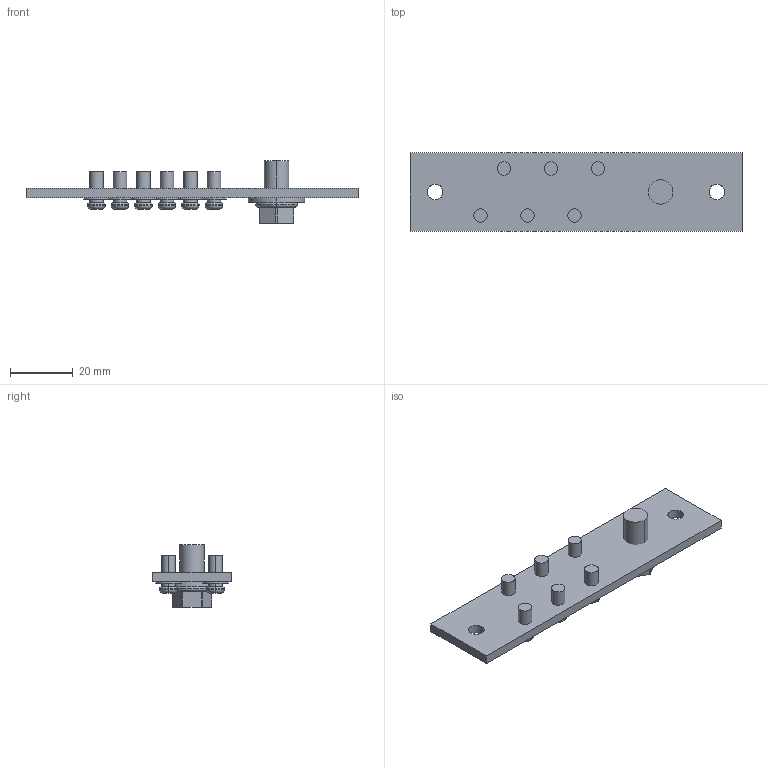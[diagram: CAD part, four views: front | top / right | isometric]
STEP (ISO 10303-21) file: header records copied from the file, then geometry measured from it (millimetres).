
FILE_DESCRIPTION(('Creo Elements/Direct Modeling STEP Export'),'2;1');
FILE_NAME('7.stp','2025-07-24T17:20:30',(''),(''),'PTC Creo Elements/Direct Modeling STEP processor for AP214 (Solid Model)','PTC Creo Elements/Direct Modeling 19.0 09-May-2014 (C) Parametric Technology GmbH','');
FILE_SCHEMA(('AUTOMOTIVE_DESIGN { 1 0 10303 214 1 1 1 1 }'));
Length unit declared in the file: millimetre
Products named in the file (18): QUILT_3-85900_PRT_PRT.PRT; QUILT_2-85520_PRT_PRT.PRT; M5_1_1_1_1_1_1_1_1_1_1_1_1_1_1_.ASM; SCREW_1_2_PRT_PRT_PRT.PRT; SCREW_1_1_PRT_PRT_PRT.PRT; SCREW_1_ASM_ASM_ASM.ASM; SCREW_0723_STP_ASM_ASM.ASM; QUILT_3-34740_PRT_PRT.PRT; QUILT_2-34360_PRT_PRT.PRT; QUILT_1-14960_PRT_PRT.PRT; USER_LIBRARY-SAN_ZU_HE_LUO-2060.PRT; M5_1_1_1_1_1_1_1_1_2_ASM_ASM.ASM; A1_ASM_ASM.ASM; CU_PRT_PRT.PRT; 17N_1_ASM_ASM.ASM; 7N_1_ASM.ASM; 7_STP.ASM; 7.stp
Assembly tree (23 placements, depth 7):
  7.stp
    7_STP.ASM
      7N_1_ASM.ASM
        17N_1_ASM_ASM.ASM
          M5_1_1_1_1_1_1_1_1_2_ASM_ASM.ASM  x3
            USER_LIBRARY-SAN_ZU_HE_LUO-2060.PRT
            QUILT_1-14960_PRT_PRT.PRT
            QUILT_2-34360_PRT_PRT.PRT
            QUILT_3-34740_PRT_PRT.PRT
          CU_PRT_PRT.PRT
          A1_ASM_ASM.ASM
            M5_1_1_1_1_1_1_1_1_2_ASM_ASM.ASM  x3
              USER_LIBRARY-SAN_ZU_HE_LUO-2060.PRT
              QUILT_1-14960_PRT_PRT.PRT
              QUILT_2-34360_PRT_PRT.PRT
              QUILT_3-34740_PRT_PRT.PRT
          SCREW_0723_STP_ASM_ASM.ASM
            SCREW_1_ASM_ASM_ASM.ASM
              SCREW_1_1_PRT_PRT_PRT.PRT
              SCREW_1_2_PRT_PRT_PRT.PRT
          M5_1_1_1_1_1_1_1_1_1_1_1_1_1_1_.ASM  x2
            QUILT_2-85520_PRT_PRT.PRT
            QUILT_3-85900_PRT_PRT.PRT
Bounding box: 106 x 25 x 20 mm (x, y, z)
Volume: 10316.7 mm3; surface area: 9619.7 mm2
Topology: 15 solids, 15 shells, 306 faces, 772 edges, 506 vertices
Faces by surface type: plane 170, cylinder 108, torus 28
Entity records: 4203 total; most frequent: CARTESIAN_POINT 640, DIRECTION 582, ORIENTED_EDGE 564, EDGE_CURVE 282, AXIS2_PLACEMENT_3D 215, VERTEX_POINT 186, VECTOR 152, LINE 152
